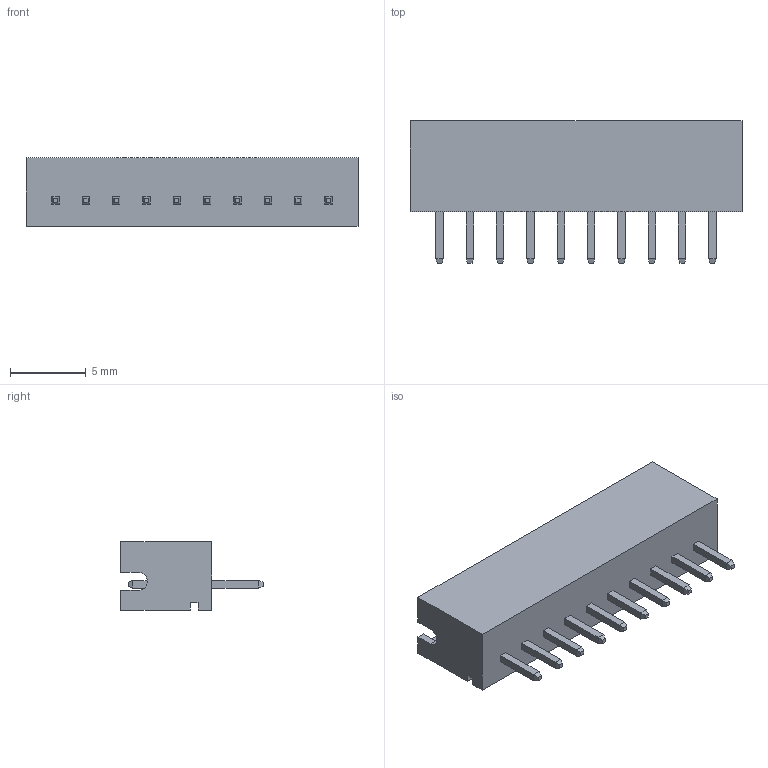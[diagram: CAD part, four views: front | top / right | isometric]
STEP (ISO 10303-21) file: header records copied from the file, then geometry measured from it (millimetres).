
FILE_DESCRIPTION (( 'STEP AP214' ), '1' );
FILE_NAME ('B10B-PH-K.STEP', '2011-05-17T11:29:55', ( 'vpeshkov' ), ( 'licard' ), 'SwSTEP 2.0', 'SolidWorks 2009', '' );
FILE_SCHEMA (( 'AUTOMOTIVE_DESIGN' ));
Length unit declared in the file: millimetre
Products named in the file (1): B10B-PH-K
Bounding box: 21.9 x 9.4 x 4.5 mm (x, y, z)
Volume: 276.2 mm3; surface area: 735.1 mm2
Topology: 1 solids, 1 shells, 206 faces, 472 edges, 288 vertices
Faces by surface type: plane 204, cylinder 2
Entity records: 7594 total; most frequent: CARTESIAN_POINT 967, ORIENTED_EDGE 944, DIRECTION 890, EDGE_CURVE 472, VECTOR 468, LINE 468, VERTEX_POINT 288, EDGE_LOOP 226
